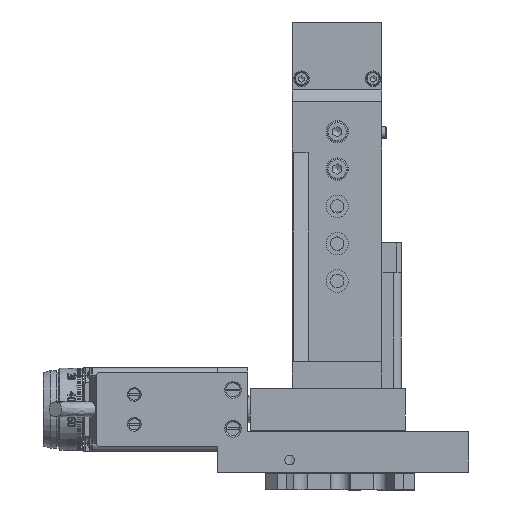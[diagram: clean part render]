
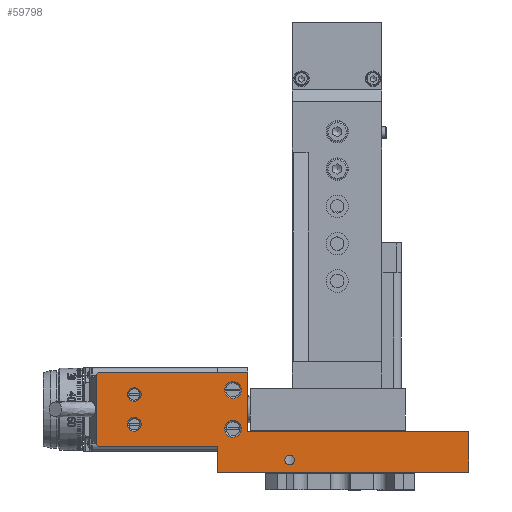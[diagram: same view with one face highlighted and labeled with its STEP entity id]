
A CAD part, left-side view. The second image highlights one B-rep face of the part: STEP entity #59798.
In plain terms, the highlighted planar face has unit normal (-1, 0, 0).
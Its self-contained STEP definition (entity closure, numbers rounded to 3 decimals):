
#4043=LINE('',#85261,#8660);
#4046=LINE('',#85267,#8663);
#5454=LINE('',#154468,#10071);
#5458=LINE('',#154583,#10075);
#5464=LINE('',#154620,#10081);
#5466=LINE('',#154624,#10083);
#5479=LINE('',#154659,#10096);
#5731=LINE('',#155689,#10348);
#5732=LINE('',#155690,#10349);
#5733=LINE('',#155691,#10350);
#5770=LINE('',#155872,#10387);
#5771=LINE('',#155873,#10388);
#5772=LINE('',#155874,#10389);
#5773=LINE('',#155875,#10390);
#5774=LINE('',#155877,#10391);
#5775=LINE('',#155878,#10392);
#8660=VECTOR('',#69414,8.5);
#8663=VECTOR('',#69419,40.);
#10071=VECTOR('',#73415,23.619);
#10075=VECTOR('',#73469,0.977);
#10081=VECTOR('',#73485,0.977);
#10083=VECTOR('',#73489,50.);
#10096=VECTOR('',#73516,20.);
#10348=VECTOR('',#74366,8.285);
#10349=VECTOR('',#74367,30.569);
#10350=VECTOR('',#74368,8.285);
#10387=VECTOR('',#74493,74.);
#10388=VECTOR('',#74494,16.);
#10389=VECTOR('',#74495,1.431);
#10390=VECTOR('',#74496,1.431);
#10391=VECTOR('',#74497,18.);
#10392=VECTOR('',#74498,13.5);
#13339=FACE_BOUND('',#19768,.T.);
#13340=FACE_BOUND('',#19769,.T.);
#13341=FACE_BOUND('',#19770,.T.);
#13342=FACE_BOUND('',#19771,.T.);
#13343=FACE_BOUND('',#19772,.T.);
#13344=FACE_BOUND('',#19773,.T.);
#19768=EDGE_LOOP('',(#46983));
#19769=EDGE_LOOP('',(#46984));
#19770=EDGE_LOOP('',(#46985));
#19771=EDGE_LOOP('',(#46986));
#19772=EDGE_LOOP('',(#46987));
#19773=EDGE_LOOP('',(#46988,#46989,#46990,#46991,#46992,#46993,#46994,#46995,
#46996,#46997,#46998,#46999,#47000,#47001,#47002,#47003));
#23009=CIRCLE('',#63975,2.8);
#23014=CIRCLE('',#63981,2.3);
#23019=CIRCLE('',#63987,2.3);
#23024=CIRCLE('',#63993,2.8);
#23165=CIRCLE('',#64354,1.621);
#25044=VERTEX_POINT('',#85258);
#25045=VERTEX_POINT('',#85260);
#25047=VERTEX_POINT('',#85266);
#26784=VERTEX_POINT('',#154465);
#26785=VERTEX_POINT('',#154467);
#26787=VERTEX_POINT('',#154473);
#26796=VERTEX_POINT('',#154500);
#26805=VERTEX_POINT('',#154527);
#26814=VERTEX_POINT('',#154554);
#26829=VERTEX_POINT('',#154619);
#26830=VERTEX_POINT('',#154623);
#26835=VERTEX_POINT('',#154637);
#27021=VERTEX_POINT('',#155261);
#27022=VERTEX_POINT('',#155262);
#27023=VERTEX_POINT('',#155266);
#27024=VERTEX_POINT('',#155267);
#27069=VERTEX_POINT('',#155427);
#27071=VERTEX_POINT('',#155438);
#27184=VERTEX_POINT('',#155869);
#27185=VERTEX_POINT('',#155871);
#27186=VERTEX_POINT('',#155876);
#31236=EDGE_CURVE('',#25045,#25044,#4043,.T.);
#31239=EDGE_CURVE('',#25045,#25047,#4046,.T.);
#33862=EDGE_CURVE('',#26785,#26784,#5454,.T.);
#33865=EDGE_CURVE('',#26787,#26787,#23009,.T.);
#33874=EDGE_CURVE('',#26796,#26796,#23014,.T.);
#33883=EDGE_CURVE('',#26805,#26805,#23019,.T.);
#33892=EDGE_CURVE('',#26814,#26814,#23024,.T.);
#33902=EDGE_CURVE('',#25047,#26784,#5458,.T.);
#33912=EDGE_CURVE('',#26785,#26829,#5464,.T.);
#33914=EDGE_CURVE('',#26829,#26830,#5466,.T.);
#33931=EDGE_CURVE('',#26835,#26830,#5479,.T.);
#34336=EDGE_CURVE('',#27069,#27024,#5731,.T.);
#34337=EDGE_CURVE('',#27023,#27022,#5732,.T.);
#34338=EDGE_CURVE('',#27021,#27071,#5733,.T.);
#34402=EDGE_CURVE('',#27184,#27184,#23165,.T.);
#34403=EDGE_CURVE('',#27185,#26835,#5770,.T.);
#34404=EDGE_CURVE('',#27071,#25044,#5771,.T.);
#34405=EDGE_CURVE('',#27022,#27021,#5772,.T.);
#34406=EDGE_CURVE('',#27024,#27023,#5773,.T.);
#34407=EDGE_CURVE('',#27186,#27069,#5774,.T.);
#34408=EDGE_CURVE('',#27185,#27186,#5775,.T.);
#46983=ORIENTED_EDGE('',*,*,#33892,.T.);
#46984=ORIENTED_EDGE('',*,*,#33865,.T.);
#46985=ORIENTED_EDGE('',*,*,#33874,.T.);
#46986=ORIENTED_EDGE('',*,*,#33883,.T.);
#46987=ORIENTED_EDGE('',*,*,#34402,.T.);
#46988=ORIENTED_EDGE('',*,*,#34403,.T.);
#46989=ORIENTED_EDGE('',*,*,#33931,.T.);
#46990=ORIENTED_EDGE('',*,*,#33914,.F.);
#46991=ORIENTED_EDGE('',*,*,#33912,.F.);
#46992=ORIENTED_EDGE('',*,*,#33862,.T.);
#46993=ORIENTED_EDGE('',*,*,#33902,.F.);
#46994=ORIENTED_EDGE('',*,*,#31239,.F.);
#46995=ORIENTED_EDGE('',*,*,#31236,.T.);
#46996=ORIENTED_EDGE('',*,*,#34404,.F.);
#46997=ORIENTED_EDGE('',*,*,#34338,.F.);
#46998=ORIENTED_EDGE('',*,*,#34405,.F.);
#46999=ORIENTED_EDGE('',*,*,#34337,.F.);
#47000=ORIENTED_EDGE('',*,*,#34406,.F.);
#47001=ORIENTED_EDGE('',*,*,#34336,.F.);
#47002=ORIENTED_EDGE('',*,*,#34407,.F.);
#47003=ORIENTED_EDGE('',*,*,#34408,.F.);
#56988=PLANE('',#64353);
#59798=ADVANCED_FACE('',(#13339,#13340,#13341,#13342,#13343,#13344),#56988,
 .T.);
#63975=AXIS2_PLACEMENT_3D('',#154474,#73420,#73421);
#63981=AXIS2_PLACEMENT_3D('',#154501,#73432,#73433);
#63987=AXIS2_PLACEMENT_3D('',#154528,#73444,#73445);
#63993=AXIS2_PLACEMENT_3D('',#154555,#73456,#73457);
#64353=AXIS2_PLACEMENT_3D('',#155868,#74489,#74490);
#64354=AXIS2_PLACEMENT_3D('',#155870,#74491,#74492);
#69414=DIRECTION('',(0.,0.,-1.));
#69419=DIRECTION('',(0.,1.,0.));
#73415=DIRECTION('',(0.,0.,-1.));
#73420=DIRECTION('center_axis',(1.,0.,0.));
#73421=DIRECTION('ref_axis',(0.,1.,0.));
#73432=DIRECTION('center_axis',(1.,0.,0.));
#73433=DIRECTION('ref_axis',(0.,1.,0.));
#73444=DIRECTION('center_axis',(1.,0.,0.));
#73445=DIRECTION('ref_axis',(0.,1.,0.));
#73456=DIRECTION('center_axis',(1.,0.,0.));
#73457=DIRECTION('ref_axis',(0.,1.,0.));
#73469=DIRECTION('',(0.,0.707,0.707));
#73485=DIRECTION('',(0.,-0.707,0.707));
#73489=DIRECTION('',(0.,-1.,0.));
#73516=DIRECTION('',(0.,0.,1.));
#74366=DIRECTION('',(0.,1.,0.));
#74367=DIRECTION('',(0.,1.,0.));
#74368=DIRECTION('',(0.,1.,0.));
#74489=DIRECTION('center_axis',(-1.,0.,0.));
#74490=DIRECTION('ref_axis',(0.,0.,1.));
#74491=DIRECTION('center_axis',(1.,0.,0.));
#74492=DIRECTION('ref_axis',(0.,1.,0.));
#74493=DIRECTION('',(0.,1.,0.));
#74494=DIRECTION('',(0.,1.,0.));
#74495=DIRECTION('',(0.,1.,0.));
#74496=DIRECTION('',(0.,1.,0.));
#74497=DIRECTION('',(0.,1.,0.));
#74498=DIRECTION('',(0.,0.,-1.));
#85258=CARTESIAN_POINT('',(-30.,72.,0.));
#85260=CARTESIAN_POINT('',(-30.,72.,8.5));
#85261=CARTESIAN_POINT('',(-30.,72.,8.5));
#85266=CARTESIAN_POINT('',(-30.,112.,8.5));
#85267=CARTESIAN_POINT('',(-30.,62.,8.5));
#154465=CARTESIAN_POINT('',(-30.,112.691,9.191));
#154467=CARTESIAN_POINT('',(-30.,112.691,32.809));
#154468=CARTESIAN_POINT('',(-30.,112.691,21.));
#154473=CARTESIAN_POINT('',(-30.,69.8,14.5));
#154474=CARTESIAN_POINT('Origin',(-30.,67.,14.5));
#154500=CARTESIAN_POINT('',(-30.,102.3,26.));
#154501=CARTESIAN_POINT('Origin',(-30.,100.,26.));
#154527=CARTESIAN_POINT('',(-30.,102.3,16.));
#154528=CARTESIAN_POINT('Origin',(-30.,100.,16.));
#154554=CARTESIAN_POINT('',(-30.,69.8,27.5));
#154555=CARTESIAN_POINT('Origin',(-30.,67.,27.5));
#154583=CARTESIAN_POINT('',(-30.,103.375,-0.125));
#154619=CARTESIAN_POINT('',(-30.,112.,33.5));
#154620=CARTESIAN_POINT('',(-30.,103.375,42.125));
#154623=CARTESIAN_POINT('',(-30.,62.,33.5));
#154624=CARTESIAN_POINT('',(-30.,62.,33.5));
#154637=CARTESIAN_POINT('',(-30.,62.,13.5));
#154659=CARTESIAN_POINT('',(-30.,62.,21.));
#155261=CARTESIAN_POINT('',(-30.,47.715,0.));
#155262=CARTESIAN_POINT('',(-30.,46.285,0.));
#155266=CARTESIAN_POINT('',(-30.,15.715,0.));
#155267=CARTESIAN_POINT('',(-30.,14.285,0.));
#155427=CARTESIAN_POINT('',(-30.,6.,0.));
#155438=CARTESIAN_POINT('',(-30.,56.,0.));
#155689=CARTESIAN_POINT('',(-30.,28.,0.));
#155690=CARTESIAN_POINT('',(-30.,28.,0.));
#155691=CARTESIAN_POINT('',(-30.,28.,0.));
#155868=CARTESIAN_POINT('Origin',(-30.,0.,7.5));
#155869=CARTESIAN_POINT('',(-30.,49.621,4.));
#155870=CARTESIAN_POINT('Origin',(-30.,48.,4.));
#155871=CARTESIAN_POINT('',(-30.,-12.,13.5));
#155872=CARTESIAN_POINT('',(-30.,0.,13.5));
#155873=CARTESIAN_POINT('',(-30.,0.,0.));
#155874=CARTESIAN_POINT('',(-30.,0.,0.));
#155875=CARTESIAN_POINT('',(-30.,0.,0.));
#155876=CARTESIAN_POINT('',(-30.,-12.,0.));
#155877=CARTESIAN_POINT('',(-30.,0.,0.));
#155878=CARTESIAN_POINT('',(-30.,-12.,13.5));
